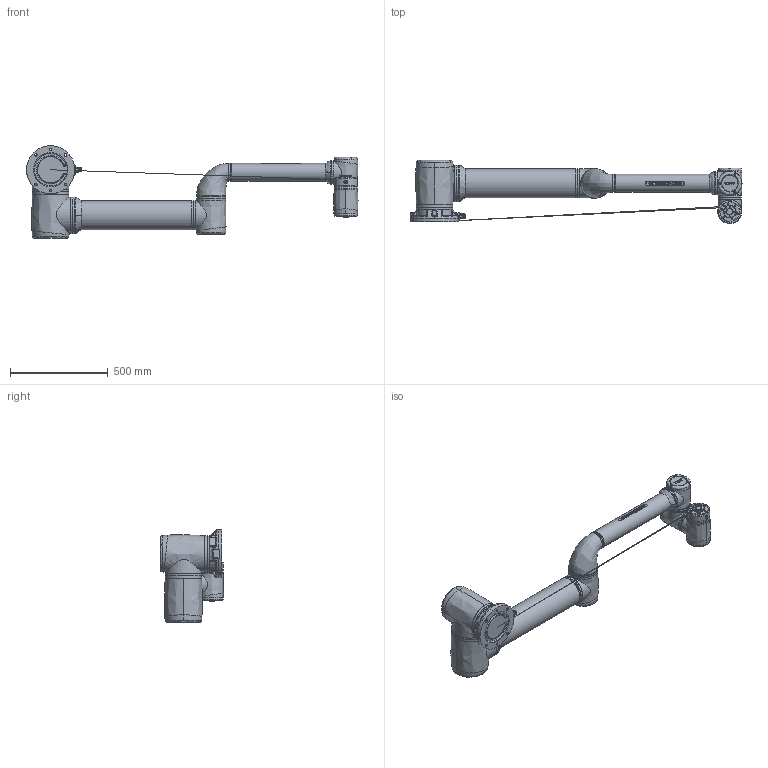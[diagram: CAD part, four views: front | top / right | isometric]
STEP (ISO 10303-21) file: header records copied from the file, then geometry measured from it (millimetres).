
FILE_DESCRIPTION (( 'STEP AP214' ), '1' );
FILE_NAME ('Pro 16.STEP', '2023-10-15T14:47:41', ( '' ), ( '' ), 'SwSTEP 2.0', 'SolidWorks 2016', '' );
FILE_SCHEMA (( 'AUTOMOTIVE_DESIGN' ));
Length unit declared in the file: millimetre
Products named in the file (15): Pro 16 03; Pro 16 06; Pro 16 02; Pro 16 01; Pro 16 00; Pro 16; Pro 16 05; Pro 16 04
Assembly tree (7 placements, depth 2):
  Pro 16 06
  Pro 16 02
  Pro 16 01
  Pro 16 00
  Pro 16
    Pro 16 00
    Pro 16 01
    Pro 16 02
    Pro 16 03
    Pro 16 04
    Pro 16 05
    Pro 16 06
Bounding box: 1694.37 x 323.26 x 473 mm (x, y, z)
Volume: 44317750.7 mm3; surface area: 1717320.5 mm2
Topology: 15 solids, 38 shells, 1559 faces, 4070 edges, 2765 vertices
Faces by surface type: plane 811, bspline 346, cylinder 330, cone 42, torus 22, sphere 8
Full cylindrical faces by diameter (mm): 0.8 x8, 1 x4, 1.4 x4, 2 x4, 2.05 x4, 2.7 x4, 2.8 x4, 3 x4, 4.2 x1, 4.5 x4, 5 x4, 5.8 x1, 6 x1, 6.8 x7, 8 x17, 8.7 x1, 9 x2, 9.58 x1, 10.5 x1, 12 x4, 13 x4, 14 x3, 15 x1, 18 x2, 19 x2, 19.8 x1, 20 x1, 21.15 x1, 21.5 x1, 24.5 x4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
Entity records: 97907 total; most frequent: CARTESIAN_POINT 50324, ORIENTED_EDGE 7388, DIRECTION 5658, EDGE_CURVE 3694, VERTEX_POINT 2652, EDGE_LOOP 2024, AXIS2_PLACEMENT_3D 1928, LINE 1802
